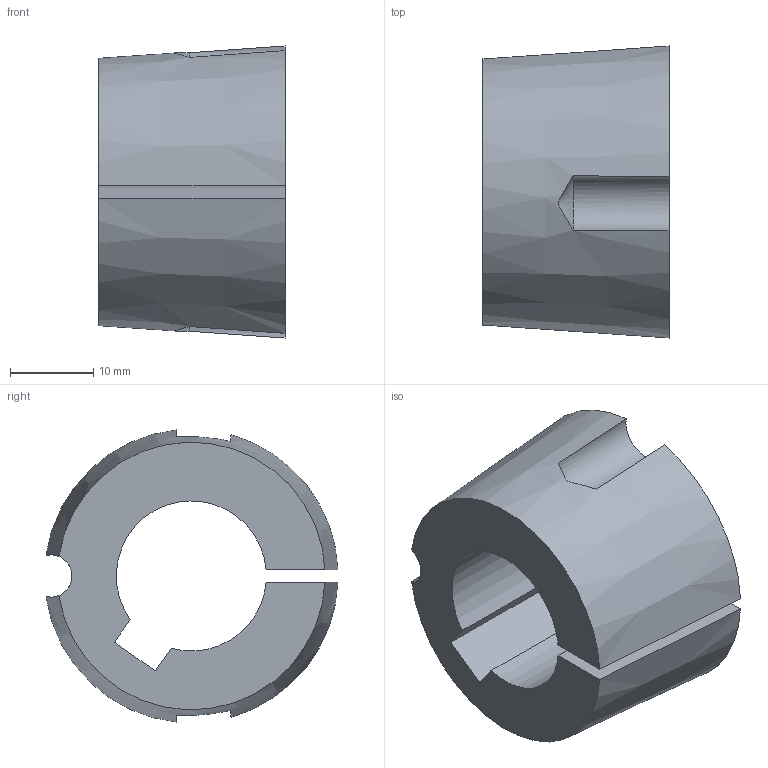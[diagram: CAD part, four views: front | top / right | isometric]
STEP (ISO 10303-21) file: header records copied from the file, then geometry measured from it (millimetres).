
FILE_DESCRIPTION( ( 'STEP AP203' ), '1' );
FILE_NAME( 'D:/export/antriebselemente/spannbuchsen_und_spannsaetze/taper-spannbuchsen_1008_bis_5050/taper-spannbuchsen_62250118Isometric_9.stp', '2018-12-11T11:10:56', ( '' ), ( '' ), ' ', 'PARTsolutions', ' ' );
FILE_SCHEMA( ( 'CONFIG_CONTROL_DESIGN' ) );
Length unit declared in the file: millimetre
Products named in the file (1): _taper-spannbuchsen_62250118
Bounding box: 22.3 x 35.01 x 35.02 mm (x, y, z)
Volume: 12848.5 mm3; surface area: 5365.5 mm2
Topology: 1 solids, 1 shells, 16 faces, 42 edges, 28 vertices
Faces by surface type: plane 7, cylinder 5, cone 4
Entity records: 602 total; most frequent: CARTESIAN_POINT 163, ORIENTED_EDGE 84, DIRECTION 82, EDGE_CURVE 42, AXIS2_PLACEMENT_3D 33, VERTEX_POINT 28, ADVANCED_FACE 16, FACE_OUTER_BOUND 16
